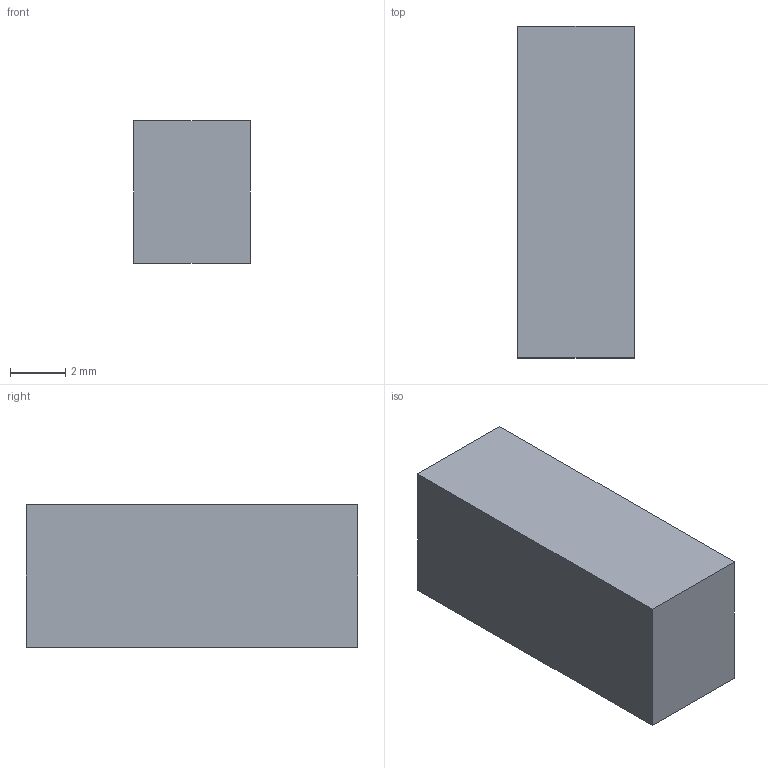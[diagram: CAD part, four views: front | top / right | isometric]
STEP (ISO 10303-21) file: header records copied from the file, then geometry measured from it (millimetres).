
FILE_DESCRIPTION(('Open CASCADE Model'),'2;1');
FILE_NAME('R36_J3_CK_5_CATALOG_EXTERNAL_GAUGE','2026-09-15T13:10:28',( 'Author'),('Open CASCADE'),'Open CASCADE STEP processor 7.9', 'build123d','Unknown');
FILE_SCHEMA(('AUTOMOTIVE_DESIGN { 1 0 10303 214 1 1 1 1 }'));
Length unit declared in the file: millimetre
Products named in the file (1): R36_J3_CK_5_CATALOG_EXTERNAL_GAUGE
Bounding box: 4.2 x 12 x 5.15 mm (x, y, z)
Volume: 259.6 mm3; surface area: 267.7 mm2
Topology: 1 solids, 1 shells, 6 faces, 12 edges, 8 vertices
Faces by surface type: plane 6
Entity records: 322 total; most frequent: CARTESIAN_POINT 51, DIRECTION 50, LINE 36, VECTOR 36, ORIENTED_EDGE 24, PCURVE 24, DEFINITIONAL_REPRESENTATION 24, EDGE_CURVE 12
